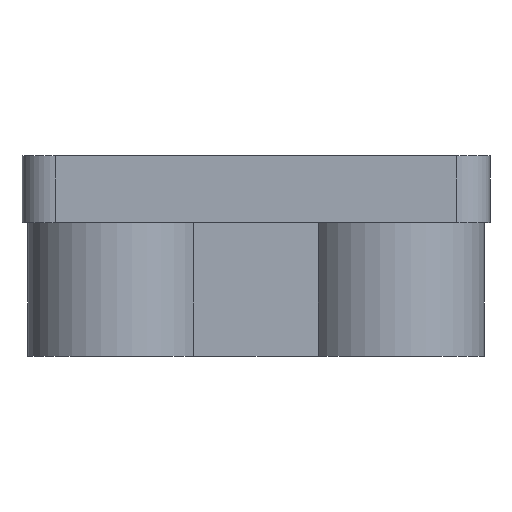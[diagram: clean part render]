
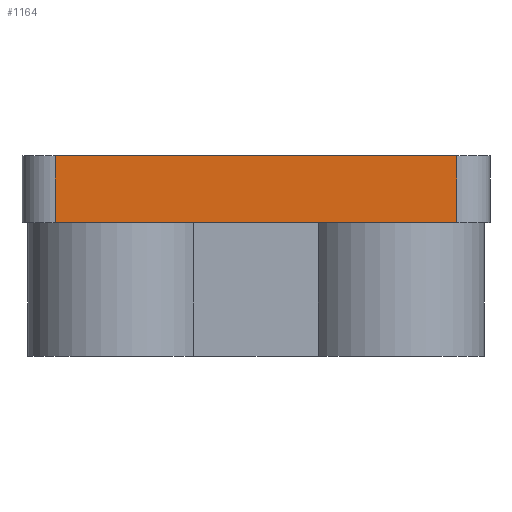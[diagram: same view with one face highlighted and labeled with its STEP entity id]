
A CAD part, left-side view. The second image highlights one B-rep face of the part: STEP entity #1164.
In plain terms, the highlighted planar face has unit normal (-1, 0, 0).
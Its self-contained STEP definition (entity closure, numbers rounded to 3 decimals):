
#279 = PLANE('',#280);
#280 = AXIS2_PLACEMENT_3D('',#281,#282,#283);
#281 = CARTESIAN_POINT('',(10.,0.,0.));
#282 = DIRECTION('',(0.,0.,1.));
#283 = DIRECTION('',(1.,0.,0.));
#599 = EDGE_CURVE('',#600,#602,#604,.T.);
#600 = VERTEX_POINT('',#601);
#601 = CARTESIAN_POINT('',(-20.,-18.,0.));
#602 = VERTEX_POINT('',#603);
#603 = CARTESIAN_POINT('',(-20.,18.,0.));
#604 = SURFACE_CURVE('',#605,(#609,#616),.PCURVE_S1.);
#605 = LINE('',#606,#607);
#606 = CARTESIAN_POINT('',(-20.,0.,0.));
#607 = VECTOR('',#608,1.);
#608 = DIRECTION('',(0.,1.,0.));
#609 = PCURVE('',#279,#610);
#610 = DEFINITIONAL_REPRESENTATION('',(#611),#615);
#611 = LINE('',#612,#613);
#612 = CARTESIAN_POINT('',(-30.,0.));
#613 = VECTOR('',#614,1.);
#614 = DIRECTION('',(0.,1.));
#615 = ( GEOMETRIC_REPRESENTATION_CONTEXT(2) 
PARAMETRIC_REPRESENTATION_CONTEXT() REPRESENTATION_CONTEXT('2D SPACE',''
  ) );
#616 = PCURVE('',#617,#622);
#617 = PLANE('',#618);
#618 = AXIS2_PLACEMENT_3D('',#619,#620,#621);
#619 = CARTESIAN_POINT('',(-20.,-18.,0.));
#620 = DIRECTION('',(-1.,0.,0.));
#621 = DIRECTION('',(0.,1.,0.));
#622 = DEFINITIONAL_REPRESENTATION('',(#623),#627);
#623 = LINE('',#624,#625);
#624 = CARTESIAN_POINT('',(18.,0.));
#625 = VECTOR('',#626,1.);
#626 = DIRECTION('',(1.,0.));
#627 = ( GEOMETRIC_REPRESENTATION_CONTEXT(2) 
PARAMETRIC_REPRESENTATION_CONTEXT() REPRESENTATION_CONTEXT('2D SPACE',''
  ) );
#650 = CYLINDRICAL_SURFACE('',#651,3.);
#651 = AXIS2_PLACEMENT_3D('',#652,#653,#654);
#652 = CARTESIAN_POINT('',(-17.,-18.,0.));
#653 = DIRECTION('',(0.,0.,-1.));
#654 = DIRECTION('',(-1.,0.,0.));
#850 = CYLINDRICAL_SURFACE('',#851,3.);
#851 = AXIS2_PLACEMENT_3D('',#852,#853,#854);
#852 = CARTESIAN_POINT('',(-17.,18.,0.));
#853 = DIRECTION('',(0.,0.,-1.));
#854 = DIRECTION('',(-1.,0.,0.));
#1129 = PLANE('',#1130);
#1130 = AXIS2_PLACEMENT_3D('',#1131,#1132,#1133);
#1131 = CARTESIAN_POINT('',(10.,0.,6.));
#1132 = DIRECTION('',(0.,0.,1.));
#1133 = DIRECTION('',(1.,0.,0.));
#1164 = ADVANCED_FACE('',(#1165),#617,.T.);
#1165 = FACE_BOUND('',#1166,.T.);
#1166 = EDGE_LOOP('',(#1167,#1190,#1213,#1234));
#1167 = ORIENTED_EDGE('',*,*,#1168,.T.);
#1168 = EDGE_CURVE('',#600,#1169,#1171,.T.);
#1169 = VERTEX_POINT('',#1170);
#1170 = CARTESIAN_POINT('',(-20.,-18.,6.));
#1171 = SURFACE_CURVE('',#1172,(#1176,#1183),.PCURVE_S1.);
#1172 = LINE('',#1173,#1174);
#1173 = CARTESIAN_POINT('',(-20.,-18.,0.));
#1174 = VECTOR('',#1175,1.);
#1175 = DIRECTION('',(0.,0.,1.));
#1176 = PCURVE('',#617,#1177);
#1177 = DEFINITIONAL_REPRESENTATION('',(#1178),#1182);
#1178 = LINE('',#1179,#1180);
#1179 = CARTESIAN_POINT('',(0.,0.));
#1180 = VECTOR('',#1181,1.);
#1181 = DIRECTION('',(0.,-1.));
#1182 = ( GEOMETRIC_REPRESENTATION_CONTEXT(2) 
PARAMETRIC_REPRESENTATION_CONTEXT() REPRESENTATION_CONTEXT('2D SPACE',''
  ) );
#1183 = PCURVE('',#650,#1184);
#1184 = DEFINITIONAL_REPRESENTATION('',(#1185),#1189);
#1185 = LINE('',#1186,#1187);
#1186 = CARTESIAN_POINT('',(6.283,0.));
#1187 = VECTOR('',#1188,1.);
#1188 = DIRECTION('',(0.,-1.));
#1189 = ( GEOMETRIC_REPRESENTATION_CONTEXT(2) 
PARAMETRIC_REPRESENTATION_CONTEXT() REPRESENTATION_CONTEXT('2D SPACE',''
  ) );
#1190 = ORIENTED_EDGE('',*,*,#1191,.T.);
#1191 = EDGE_CURVE('',#1169,#1192,#1194,.T.);
#1192 = VERTEX_POINT('',#1193);
#1193 = CARTESIAN_POINT('',(-20.,18.,6.));
#1194 = SURFACE_CURVE('',#1195,(#1199,#1206),.PCURVE_S1.);
#1195 = LINE('',#1196,#1197);
#1196 = CARTESIAN_POINT('',(-20.,0.,6.));
#1197 = VECTOR('',#1198,1.);
#1198 = DIRECTION('',(0.,1.,0.));
#1199 = PCURVE('',#617,#1200);
#1200 = DEFINITIONAL_REPRESENTATION('',(#1201),#1205);
#1201 = LINE('',#1202,#1203);
#1202 = CARTESIAN_POINT('',(18.,-6.));
#1203 = VECTOR('',#1204,1.);
#1204 = DIRECTION('',(1.,0.));
#1205 = ( GEOMETRIC_REPRESENTATION_CONTEXT(2) 
PARAMETRIC_REPRESENTATION_CONTEXT() REPRESENTATION_CONTEXT('2D SPACE',''
  ) );
#1206 = PCURVE('',#1129,#1207);
#1207 = DEFINITIONAL_REPRESENTATION('',(#1208),#1212);
#1208 = LINE('',#1209,#1210);
#1209 = CARTESIAN_POINT('',(-30.,0.));
#1210 = VECTOR('',#1211,1.);
#1211 = DIRECTION('',(0.,1.));
#1212 = ( GEOMETRIC_REPRESENTATION_CONTEXT(2) 
PARAMETRIC_REPRESENTATION_CONTEXT() REPRESENTATION_CONTEXT('2D SPACE',''
  ) );
#1213 = ORIENTED_EDGE('',*,*,#1214,.F.);
#1214 = EDGE_CURVE('',#602,#1192,#1215,.T.);
#1215 = SURFACE_CURVE('',#1216,(#1220,#1227),.PCURVE_S1.);
#1216 = LINE('',#1217,#1218);
#1217 = CARTESIAN_POINT('',(-20.,18.,0.));
#1218 = VECTOR('',#1219,1.);
#1219 = DIRECTION('',(0.,0.,1.));
#1220 = PCURVE('',#617,#1221);
#1221 = DEFINITIONAL_REPRESENTATION('',(#1222),#1226);
#1222 = LINE('',#1223,#1224);
#1223 = CARTESIAN_POINT('',(36.,0.));
#1224 = VECTOR('',#1225,1.);
#1225 = DIRECTION('',(0.,-1.));
#1226 = ( GEOMETRIC_REPRESENTATION_CONTEXT(2) 
PARAMETRIC_REPRESENTATION_CONTEXT() REPRESENTATION_CONTEXT('2D SPACE',''
  ) );
#1227 = PCURVE('',#850,#1228);
#1228 = DEFINITIONAL_REPRESENTATION('',(#1229),#1233);
#1229 = LINE('',#1230,#1231);
#1230 = CARTESIAN_POINT('',(0.,0.));
#1231 = VECTOR('',#1232,1.);
#1232 = DIRECTION('',(0.,-1.));
#1233 = ( GEOMETRIC_REPRESENTATION_CONTEXT(2) 
PARAMETRIC_REPRESENTATION_CONTEXT() REPRESENTATION_CONTEXT('2D SPACE',''
  ) );
#1234 = ORIENTED_EDGE('',*,*,#599,.F.);
